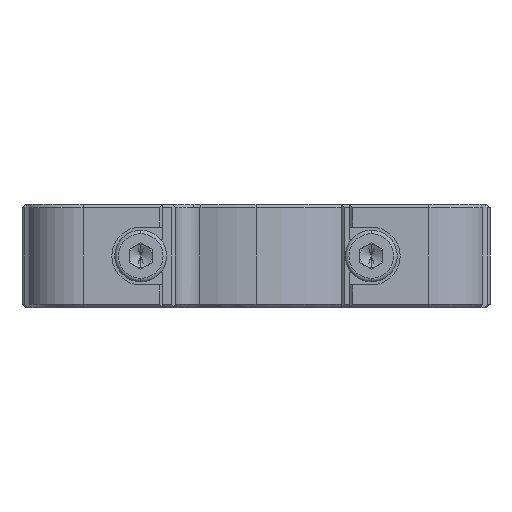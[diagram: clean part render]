
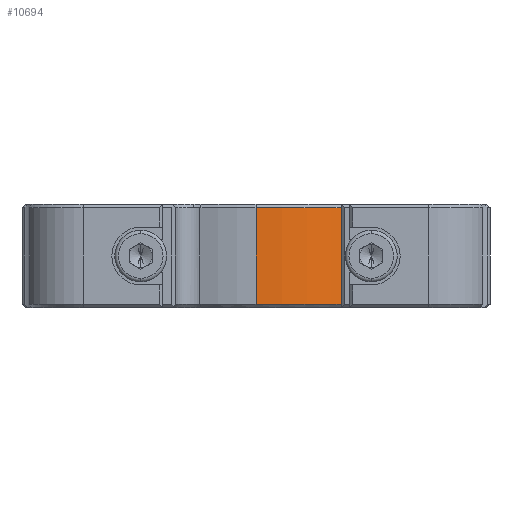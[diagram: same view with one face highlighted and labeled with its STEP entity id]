
A CAD part, left-side view. The second image highlights one B-rep face of the part: STEP entity #10694.
In plain terms, the highlighted cylindrical face has radius 14.4 mm (diameter 28.8 mm), a partial arc.
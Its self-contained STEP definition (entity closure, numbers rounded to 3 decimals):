
#849 = VECTOR ( 'NONE', #11652, 1000. ) ;
#1101 = EDGE_CURVE ( 'NONE', #5022, #17175, #16482, .T. ) ;
#1183 = VECTOR ( 'NONE', #13435, 1000. ) ;
#1279 = ORIENTED_EDGE ( 'NONE', *, *, #18145, .T. ) ;
#1319 = CIRCLE ( 'NONE', #8571, 14.4 ) ;
#1970 = DIRECTION ( 'NONE',  ( 0., 0., -1. ) ) ;
#2721 = CARTESIAN_POINT ( 'NONE',  ( -14.4, 0., -4.2 ) ) ;
#2747 = DIRECTION ( 'NONE',  ( 0., 0., -1. ) ) ;
#2847 = CYLINDRICAL_SURFACE ( 'NONE', #7052, 14.4 ) ;
#4166 = LINE ( 'NONE', #10187, #1183 ) ;
#4836 = CARTESIAN_POINT ( 'NONE',  ( -14.4, 0., 4.2 ) ) ;
#5022 = VERTEX_POINT ( 'NONE', #4836 ) ;
#5432 = CARTESIAN_POINT ( 'NONE',  ( -8.525, -11.605, -4.2 ) ) ;
#5648 = CARTESIAN_POINT ( 'NONE',  ( 0., 0., -4.2 ) ) ;
#5690 = ORIENTED_EDGE ( 'NONE', *, *, #8777, .T. ) ;
#7052 = AXIS2_PLACEMENT_3D ( 'NONE', #14785, #2747, #14685 ) ;
#8571 = AXIS2_PLACEMENT_3D ( 'NONE', #11055, #1970, #17063 ) ;
#8777 = EDGE_CURVE ( 'NONE', #17175, #16779, #9949, .T. ) ;
#9949 = CIRCLE ( 'NONE', #15302, 14.4 ) ;
#10052 = FACE_OUTER_BOUND ( 'NONE', #14941, .T. ) ;
#10187 = CARTESIAN_POINT ( 'NONE',  ( -8.525, -11.605, 4.5 ) ) ;
#10640 = ORIENTED_EDGE ( 'NONE', *, *, #1101, .T. ) ;
#10694 = ADVANCED_FACE ( 'NONE', ( #10052 ), #2847, .T. ) ;
#11055 = CARTESIAN_POINT ( 'NONE',  ( 0., 0., 4.2 ) ) ;
#11652 = DIRECTION ( 'NONE',  ( 0., 0., -1. ) ) ;
#11765 = DIRECTION ( 'NONE',  ( -1., 0., 0. ) ) ;
#13100 = EDGE_CURVE ( 'NONE', #15595, #16779, #4166, .T. ) ;
#13435 = DIRECTION ( 'NONE',  ( 0., 0., -1. ) ) ;
#14611 = CARTESIAN_POINT ( 'NONE',  ( -14.4, 0., 4.5 ) ) ;
#14685 = DIRECTION ( 'NONE',  ( -1., 0., 0. ) ) ;
#14785 = CARTESIAN_POINT ( 'NONE',  ( 0., 0., 4.5 ) ) ;
#14941 = EDGE_LOOP ( 'NONE', ( #1279, #10640, #5690, #19233 ) ) ;
#15302 = AXIS2_PLACEMENT_3D ( 'NONE', #5648, #19365, #11765 ) ;
#15595 = VERTEX_POINT ( 'NONE', #16055 ) ;
#16055 = CARTESIAN_POINT ( 'NONE',  ( -8.525, -11.605, 4.2 ) ) ;
#16482 = LINE ( 'NONE', #14611, #849 ) ;
#16779 = VERTEX_POINT ( 'NONE', #5432 ) ;
#17063 = DIRECTION ( 'NONE',  ( -1., 0., 0. ) ) ;
#17175 = VERTEX_POINT ( 'NONE', #2721 ) ;
#18145 = EDGE_CURVE ( 'NONE', #15595, #5022, #1319, .T. ) ;
#19233 = ORIENTED_EDGE ( 'NONE', *, *, #13100, .F. ) ;
#19365 = DIRECTION ( 'NONE',  ( 0., 0., 1. ) ) ;
